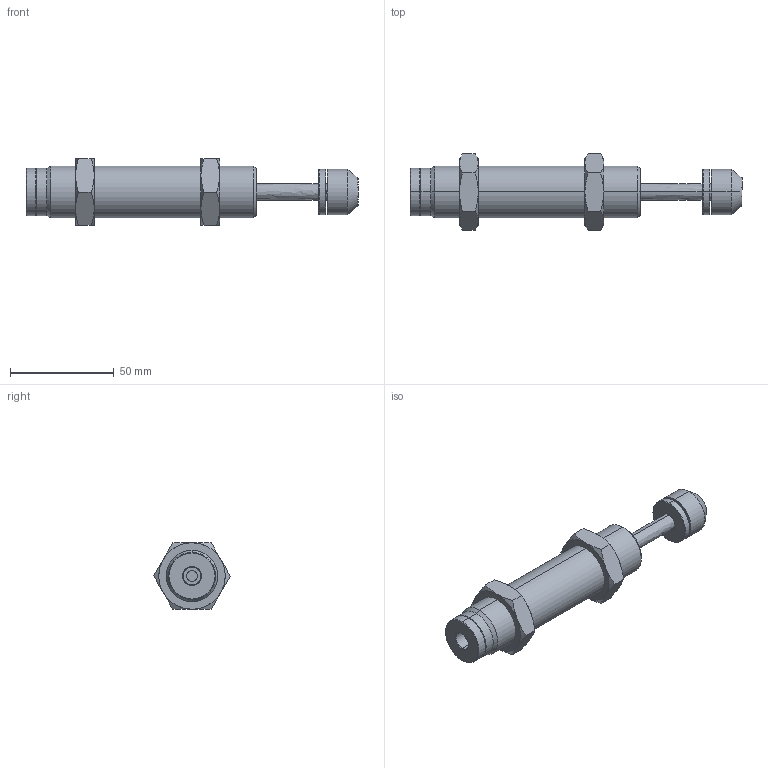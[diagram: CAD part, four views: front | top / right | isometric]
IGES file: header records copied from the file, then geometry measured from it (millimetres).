
Start section: SolidWorks IGES file using analytic representation for surfaces
Global section: file name: D:\IGS跡宒\AC2530.IGS,1; native system: 5HSolidWorks 2013; preprocessor: SolidWorks 2013; author: Administrator; date: 160406.152327; units: inch
Bounding box: 160 x 36.95 x 32.05 mm (x, y, z)
Surface area: 17821.8 mm2 (no closed solid volume)
Topology: 0 solids, 0 shells, 97 faces, 1552 edges, 1552 vertices
Faces by surface type: revolution 72, bspline 25
